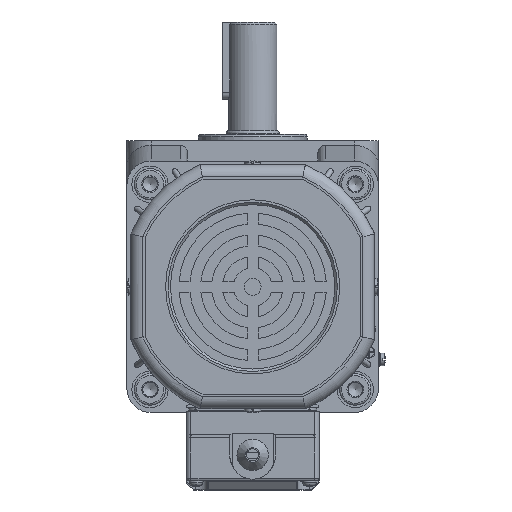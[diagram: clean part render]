
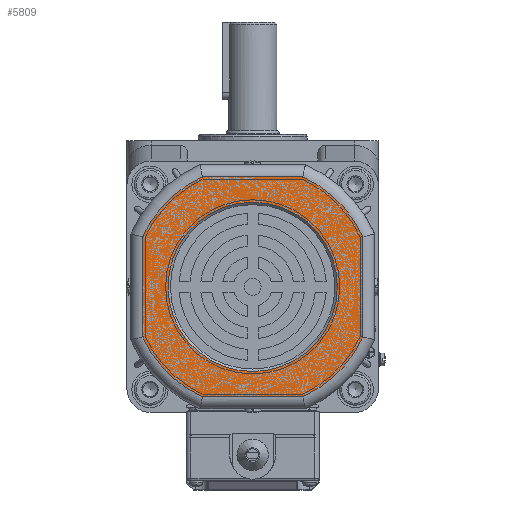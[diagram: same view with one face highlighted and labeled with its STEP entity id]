
A CAD part, left-side view. The second image highlights one B-rep face of the part: STEP entity #5809.
In plain terms, the highlighted planar face has unit normal (-1, 0, 0).
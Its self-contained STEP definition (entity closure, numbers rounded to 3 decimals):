
#5809=ADVANCED_FACE('',(#13849,#13850),#7511,.F.);
#7511=PLANE('',#42296);
#8971=LINE('',#66127,#11559);
#8975=LINE('',#66165,#11563);
#8978=LINE('',#66199,#11566);
#8979=LINE('',#66216,#11567);
#11559=VECTOR('',#49087,1.);
#11563=VECTOR('',#49103,1.);
#11566=VECTOR('',#49114,1.);
#11567=VECTOR('',#49121,1.);
#13849=FACE_BOUND('',#15736,.T.);
#13850=FACE_BOUND('',#15737,.T.);
#15736=EDGE_LOOP('',(#22767,#22768,#22769,#22770,#22771,#22772,#22773,#22774));
#15737=EDGE_LOOP('',(#22775));
#22767=ORIENTED_EDGE('',*,*,#34995,.T.);
#22768=ORIENTED_EDGE('',*,*,#34976,.T.);
#22769=ORIENTED_EDGE('',*,*,#34981,.T.);
#22770=ORIENTED_EDGE('',*,*,#34985,.T.);
#22771=ORIENTED_EDGE('',*,*,#34989,.T.);
#22772=ORIENTED_EDGE('',*,*,#34993,.T.);
#22773=ORIENTED_EDGE('',*,*,#34998,.T.);
#22774=ORIENTED_EDGE('',*,*,#34999,.T.);
#22775=ORIENTED_EDGE('',*,*,#35167,.T.);
#30348=VERTEX_POINT('',#66094);
#30349=VERTEX_POINT('',#66096);
#30351=VERTEX_POINT('',#66126);
#30353=VERTEX_POINT('',#66145);
#30355=VERTEX_POINT('',#66164);
#30357=VERTEX_POINT('',#66183);
#30358=VERTEX_POINT('',#66198);
#30359=VERTEX_POINT('',#66215);
#30479=VERTEX_POINT('',#66674);
#34976=EDGE_CURVE('',#30349,#30348,#39187,.T.);
#34981=EDGE_CURVE('',#30348,#30351,#8971,.T.);
#34985=EDGE_CURVE('',#30351,#30353,#39189,.T.);
#34989=EDGE_CURVE('',#30353,#30355,#8975,.T.);
#34993=EDGE_CURVE('',#30355,#30357,#39191,.T.);
#34995=EDGE_CURVE('',#30358,#30349,#8978,.T.);
#34998=EDGE_CURVE('',#30357,#30359,#8979,.T.);
#34999=EDGE_CURVE('',#30359,#30358,#39193,.T.);
#35167=EDGE_CURVE('',#30479,#30479,#39261,.T.);
#39187=CIRCLE('',#42123,50.);
#39189=CIRCLE('',#42129,50.);
#39191=CIRCLE('',#42135,50.);
#39193=CIRCLE('',#42141,50.);
#39261=CIRCLE('',#42281,35.);
#42123=AXIS2_PLACEMENT_3D('',#66095,#49078,#49079);
#42129=AXIS2_PLACEMENT_3D('',#66146,#49094,#49095);
#42135=AXIS2_PLACEMENT_3D('',#66184,#49110,#49111);
#42141=AXIS2_PLACEMENT_3D('',#66218,#49124,#49125);
#42281=AXIS2_PLACEMENT_3D('',#66673,#49500,#49501);
#42296=AXIS2_PLACEMENT_3D('',#66689,#49530,#49531);
#49078=DIRECTION('',(-1.,0.,0.));
#49079=DIRECTION('',(0.,0.,1.));
#49087=DIRECTION('',(0.,0.,1.));
#49094=DIRECTION('',(-1.,0.,0.));
#49095=DIRECTION('',(0.,0.,1.));
#49103=DIRECTION('',(0.,1.,0.));
#49110=DIRECTION('',(-1.,0.,0.));
#49111=DIRECTION('',(0.,0.,1.));
#49114=DIRECTION('',(0.,-1.,0.));
#49121=DIRECTION('',(0.,0.,-1.));
#49124=DIRECTION('',(-1.,0.,0.));
#49125=DIRECTION('',(0.,0.,1.));
#49500=DIRECTION('',(1.,0.,0.));
#49501=DIRECTION('',(0.,-1.,0.));
#49530=DIRECTION('',(1.,0.,0.));
#49531=DIRECTION('',(0.,0.,1.));
#66094=CARTESIAN_POINT('',(-269.8,-166.171,-79.221));
#66095=CARTESIAN_POINT('',(-269.8,-120.671,-58.491));
#66096=CARTESIAN_POINT('',(-269.8,-141.402,-103.991));
#66126=CARTESIAN_POINT('',(-269.8,-166.171,-37.76));
#66127=CARTESIAN_POINT('',(-269.8,-166.171,-36.702));
#66145=CARTESIAN_POINT('',(-269.8,-141.402,-12.991));
#66146=CARTESIAN_POINT('',(-269.8,-120.671,-58.491));
#66164=CARTESIAN_POINT('',(-269.8,-99.941,-12.991));
#66165=CARTESIAN_POINT('',(-269.8,-98.882,-12.991));
#66183=CARTESIAN_POINT('',(-269.8,-75.171,-37.76));
#66184=CARTESIAN_POINT('',(-269.8,-120.671,-58.491));
#66198=CARTESIAN_POINT('',(-269.8,-99.941,-103.991));
#66199=CARTESIAN_POINT('',(-269.8,-142.46,-103.991));
#66215=CARTESIAN_POINT('',(-269.8,-75.171,-79.221));
#66216=CARTESIAN_POINT('',(-269.8,-75.171,-80.28));
#66218=CARTESIAN_POINT('',(-269.8,-120.671,-58.491));
#66673=CARTESIAN_POINT('',(-269.8,-120.671,-58.491));
#66674=CARTESIAN_POINT('',(-269.8,-155.671,-58.491));
#66689=CARTESIAN_POINT('',(-269.8,-120.671,-58.491));
